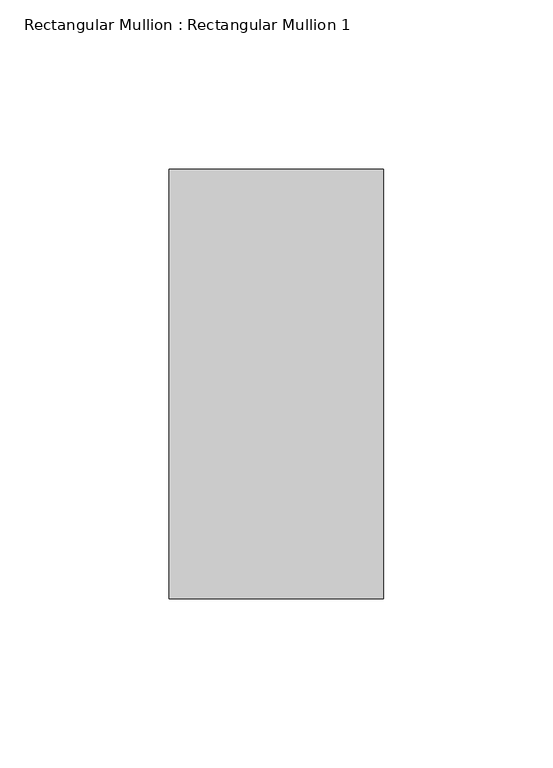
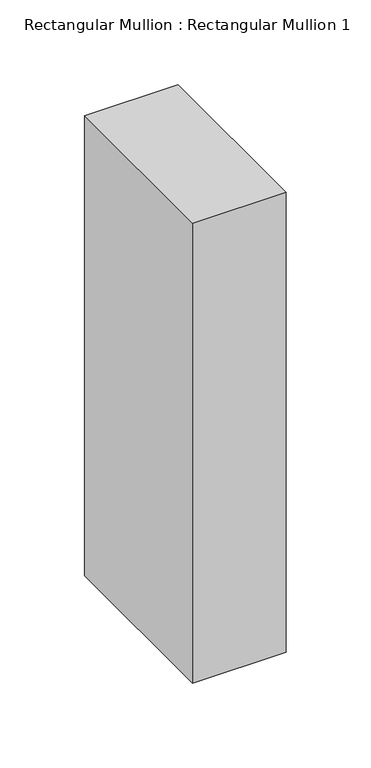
"""IFC4 building model written with IfcOpenShell, lengths in millimetres: member geometry, Rectangular Mullion : Rectangular Mullion 1."""

import ifcopenshell
import ifcopenshell.guid

model = None  # the IFC model being written
_history = None  # IfcOwnerHistory: only IFC2X3 demands one
_inside = {}  # id of a spatial element -> (the spatial element, [elements in it])
_under = {}  # id of a project, library or spatial element -> (it, [spatial elements below it])
_declared = {}  # id of a project -> (the project, [libraries it declares])
_typed = {}  # id of a type object -> (the type object, [elements of that type])
_made_of = {}  # id of a material, layer set ... -> (it, [elements and type objects made of it])


def new_model(schema):
    """Start an empty IFC model of exactly this schema.

    Asked for "IFC4X3", IfcOpenShell would pick the latest addendum, in which some entities
    have other attributes; the version numbers below select the first issue.
    IFC2X3 requires an IfcOwnerHistory on every rooted entity: one is made here for all.
    """
    global model, _history
    if schema == "IFC4X3":
        model = ifcopenshell.file(schema_version=(4, 3, 0, 0))
    else:
        model = ifcopenshell.file(schema=schema)
    _inside.clear()
    _under.clear()
    _declared.clear()
    _typed.clear()
    _made_of.clear()
    _history = None
    if model.schema == "IFC2X3":
        org = make("IfcOrganization", Name="unknown")
        user = make(
            "IfcPersonAndOrganization",
            ThePerson=make("IfcPerson", FamilyName="unknown"),
            TheOrganization=org,
        )
        app = make(
            "IfcApplication",
            ApplicationDeveloper=org,
            Version="unknown",
            ApplicationFullName="unknown",
            ApplicationIdentifier="unknown",
        )
        _history = make(
            "IfcOwnerHistory",
            OwningUser=user,
            OwningApplication=app,
            ChangeAction="ADDED",
            CreationDate=0,
        )
    return model


def make(cls, **values):
    """One entity of the class cls with the attributes given. An attribute that is None is left unset."""
    return model.create_entity(
        cls, **{name: value for name, value in values.items() if value is not None}
    )


def rooted(cls, **values):
    """An entity with a GlobalId (a new one), such as an element, a storey or a relation."""
    return make(cls, GlobalId=ifcopenshell.guid.new(), OwnerHistory=_history, **values)


def si_unit(unit_type, name, prefix=None):
    """IfcSIUnit, for example si_unit("LENGTHUNIT", "METRE", prefix="MILLI")."""
    return make("IfcSIUnit", UnitType=unit_type, Prefix=prefix, Name=name)


def assignment(units):
    """IfcUnitAssignment: the units of a project."""
    return None if units is None else make("IfcUnitAssignment", Units=units)


def point(xyz):
    """IfcCartesianPoint."""
    return None if xyz is None else make("IfcCartesianPoint", Coordinates=xyz)


def direction(xyz):
    """IfcDirection."""
    return None if xyz is None else make("IfcDirection", DirectionRatios=xyz)


def frame(location, z_axis=None, x_axis=None):
    """IfcAxis2Placement3D, a coordinate frame: its origin and axes. An axis left out is left unset."""
    return make(
        "IfcAxis2Placement3D",
        Location=point(location),
        Axis=direction(z_axis),
        RefDirection=direction(x_axis),
    )


def origin():
    """The frame at (0, 0, 0) with its axes left unset."""
    return frame((0.0, 0.0, 0.0))


def place(relative_to, where):
    """IfcLocalPlacement: puts the frame where relative to a parent placement (None: the world)."""
    return make(
        "IfcLocalPlacement", PlacementRelTo=relative_to, RelativePlacement=where
    )


def context(
    kind, dimensions, precision=None, world=None, true_north=None, identifier=None
):
    """IfcGeometricRepresentationContext, for example the 3D "Model" context."""
    return make(
        "IfcGeometricRepresentationContext",
        ContextIdentifier=identifier,
        ContextType=kind,
        CoordinateSpaceDimension=dimensions,
        Precision=precision,
        WorldCoordinateSystem=world,
        TrueNorth=true_north,
    )


def project(units=None, contexts=None):
    """IfcProject with its units and contexts."""
    return rooted(
        "IfcProject",
        Name="project",
        RepresentationContexts=contexts,
        UnitsInContext=assignment(units),
    )


def spatial(cls, under=None, at=None, **own):
    """A site, building, storey or space (cls), placed at a placement, below another one or the project."""
    s = rooted(cls, ObjectPlacement=at, **own)
    if under is not None:
        _under.setdefault(under.id(), (under, []))[1].append(s)
    return s


def polyline(points):
    """IfcPolyline through the points."""
    return make("IfcPolyline", Points=[point(p) for p in points])


def outline(outer, holes=None, kind="AREA"):
    """IfcArbitraryClosedProfileDef: a profile drawn as a closed curve; with holes, ...WithVoids."""
    if holes is None:
        return make("IfcArbitraryClosedProfileDef", ProfileType=kind, OuterCurve=outer)
    return make(
        "IfcArbitraryProfileDefWithVoids",
        ProfileType=kind,
        OuterCurve=outer,
        InnerCurves=holes,
    )


def extrude(swept, where, along, depth):
    """IfcExtrudedAreaSolid: the profile swept, set in the frame where, extruded along a direction by depth."""
    return make(
        "IfcExtrudedAreaSolid",
        SweptArea=swept,
        Position=where,
        ExtrudedDirection=direction(along),
        Depth=depth,
    )


def shape(context_of_items, identifier, shape_type, items):
    """IfcShapeRepresentation: the items that make up one representation, for example the "Body"."""
    return make(
        "IfcShapeRepresentation",
        ContextOfItems=context_of_items,
        RepresentationIdentifier=identifier,
        RepresentationType=shape_type,
        Items=items,
    )


def source(mapping_origin, context_of_items, identifier, shape_type, items):
    """IfcRepresentationMap: a shape defined once, which mapped items show again and again."""
    return make(
        "IfcRepresentationMap",
        MappingOrigin=mapping_origin,
        MappedRepresentation=shape(context_of_items, identifier, shape_type, items),
    )


def transform(
    local_origin,
    x_axis=None,
    y_axis=None,
    z_axis=None,
    scale=None,
    scale2=None,
    scale3=None,
    uniform=True,
):
    """IfcCartesianTransformationOperator3D, or its non-uniform kind. x_axis, y_axis, z_axis: its Axis1, 2, 3."""
    if uniform:
        return make(
            "IfcCartesianTransformationOperator3D",
            Axis1=direction(x_axis),
            Axis2=direction(y_axis),
            LocalOrigin=point(local_origin),
            Scale=scale,
            Axis3=direction(z_axis),
        )
    return make(
        "IfcCartesianTransformationOperator3DnonUniform",
        Axis1=direction(x_axis),
        Axis2=direction(y_axis),
        LocalOrigin=point(local_origin),
        Scale=scale,
        Axis3=direction(z_axis),
        Scale2=scale2,
        Scale3=scale3,
    )


def mapped(mapping_source, mapping_target):
    """IfcMappedItem: shows the shape of a source again, moved by a transform."""
    return make(
        "IfcMappedItem", MappingSource=mapping_source, MappingTarget=mapping_target
    )


def made_of(thing, what):
    """Note that an element or type object is made of a material, layer set ...; save() writes the relation."""
    if what is not None:
        _made_of.setdefault(what.id(), (what, []))[1].append(thing)
    return thing


def element(
    cls,
    number,
    at=None,
    inside=None,
    cuts=None,
    type_object=None,
    material=None,
    context=None,
    identifier="Body",
    shape_type=None,
    held_by="IfcProductDefinitionShape",
    body=None,
    shapes=None,
    **own,
):
    """One element of the class cls, such as IfcWall. Its Tag is "e" and its number.

    at: its placement. inside: the storey or other place that contains it. cuts: it is an
    opening in that element (IfcRelVoidsElement). A single representation is given by context,
    identifier, shape_type and body (its items); several are given by shapes. held_by: the class
    of the entity that holds the representations. save() writes the other relations.
    """
    e = rooted(cls, Tag="e%d" % number, ObjectPlacement=at, **own)
    if body is not None:
        shapes = [shape(context, identifier, shape_type, body)]
    if shapes is not None:
        e.Representation = make(held_by, Representations=shapes)
    if inside is not None:
        _inside.setdefault(inside.id(), (inside, []))[1].append(e)
    if cuts is not None:
        rooted(
            "IfcRelVoidsElement", RelatingBuildingElement=cuts, RelatedOpeningElement=e
        )
    if type_object is not None:
        _typed.setdefault(type_object.id(), (type_object, []))[1].append(e)
    return made_of(e, material)


def aggregate(whole, parts):
    """IfcRelAggregates: a whole, such as a stair, and the parts it consists of."""
    return rooted("IfcRelAggregates", RelatingObject=whole, RelatedObjects=parts)


def save(model, path):
    """Write the relations noted so far, then the file.

    IfcRelAggregates (storeys below a building ...), IfcRelContainedInSpatialStructure (elements
    in a storey), IfcRelDefinesByType, IfcRelAssociatesMaterial and IfcRelDeclares: one each for
    every whole, place, type object, material and project.
    """
    for whole, parts in _under.values():
        aggregate(whole, parts)
    for where, things in _inside.values():
        rooted(
            "IfcRelContainedInSpatialStructure",
            RelatedElements=things,
            RelatingStructure=where,
        )
    for kind, things in _typed.values():
        rooted("IfcRelDefinesByType", RelatedObjects=things, RelatingType=kind)
    for what, things in _made_of.values():
        rooted("IfcRelAssociatesMaterial", RelatedObjects=things, RelatingMaterial=what)
    for by, libraries in _declared.values():
        rooted("IfcRelDeclares", RelatingContext=by, RelatedDefinitions=libraries)
    model.write(path)


def rectangular_mullion_rectangular_mullion_1_64aff199(model_context):
    return source(origin(), model_context, "Body", "SweptSolid", [
        extrude(outline(polyline([(0.0, 63.5), (0.0, -63.5), (-63.5, -63.5), (-63.5, 63.5), (0.0, 63.5)])), frame((0.0, 0.0, -330.1999997), z_axis=(0.0, 0.0, 1.0), x_axis=(1.0, 0.0, 0.0)), (0.0, 0.0, 1.0), 330.1999997),
    ])


if __name__ == "__main__":
    model = new_model("IFC4")
    model_context = context("Model", 3, world=origin())
    ifc_project = project(units=[si_unit("LENGTHUNIT", "METRE", prefix="MILLI")], contexts=[model_context])
    site = spatial("IfcSite", under=ifc_project)
    building = spatial("IfcBuilding", under=site)
    placement = place(None, origin())
    rectangular_mullion_rectangular_mullion_1_shape = rectangular_mullion_rectangular_mullion_1_64aff199(model_context)
    element("IfcMember", 1, ObjectType="Rectangular Mullion : Rectangular Mullion 1", at=placement, inside=building, context=model_context, shape_type="MappedRepresentation", body=[
        mapped(rectangular_mullion_rectangular_mullion_1_shape, transform((0.0, 0.0, 0.0), x_axis=(1.0, 0.0, 0.0), y_axis=(0.0, 1.0, 0.0), z_axis=(0.0, 0.0, 1.0))),
    ])
    save(model, "model.ifc")
